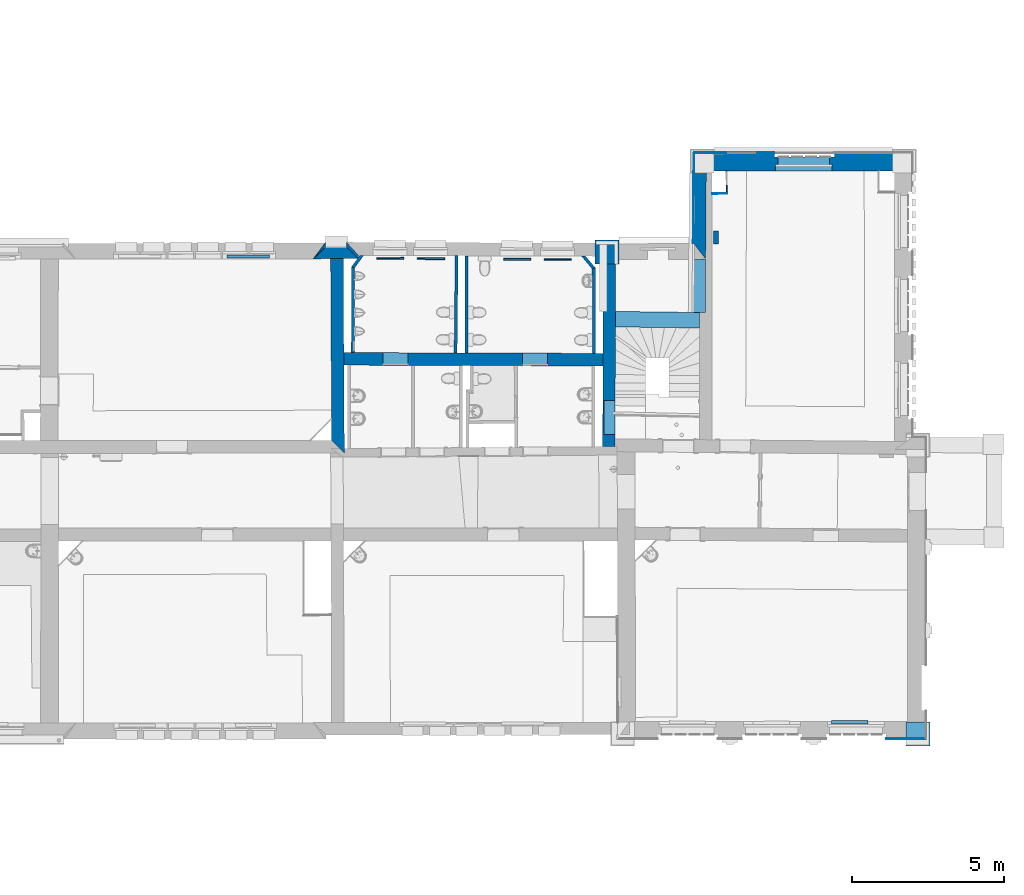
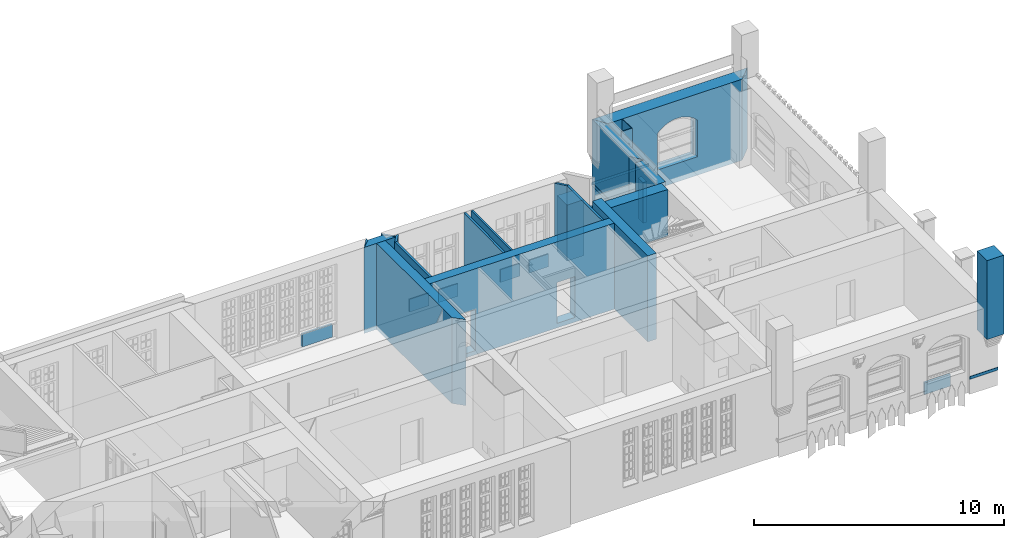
# One storey, part 35 of 90: 30 walls, 7 openings.
"""IFC2X3 building model written with IfcOpenShell, lengths in metres."""

from ifc_helpers import new_model, entity, si_unit, converted_unit, derived_unit, money_unit, direction, frame, origin_with_axes, origin_2d_with_axis, place, context, subcontext, project, spatial, polyline, rectangle, outline, extrude, clip, bounded_halfspace, material, layer, layer_set, layer_usage, type_object, element, save


model = new_model("IFC2X3")

# Units and contexts
model_context = context("Model", 3, precision=1e-05, world=origin_with_axes(), true_north=direction((0.0, 1.0)))
body_context = subcontext(model_context, "Body", "Model", "MODEL_VIEW")
ifc_project = project(units=[si_unit("LENGTHUNIT", "METRE"), si_unit("AREAUNIT", "SQUARE_METRE"), si_unit("VOLUMEUNIT", "CUBIC_METRE"), converted_unit("PLANEANGLEUNIT", "DEGREE", entity("IfcPlaneAngleMeasure", 0.0174532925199), si_unit("PLANEANGLEUNIT", "RADIAN"), dimensions=[0, 0, 0, 0, 0, 0, 0]), money_unit("EUR"), converted_unit("TIMEUNIT", "Year", entity("IfcTimeMeasure", 31556926.0), si_unit("TIMEUNIT", "SECOND"), dimensions=[0, 0, 1, 0, 0, 0, 0]), si_unit("MASSUNIT", "GRAM", prefix="KILO"), si_unit("THERMODYNAMICTEMPERATUREUNIT", "DEGREE_CELSIUS"), si_unit("LUMINOUSINTENSITYUNIT", "LUMEN"), si_unit("ENERGYUNIT", "JOULE", prefix="MEGA"), derived_unit("THERMALCONDUCTANCEUNIT", [(si_unit("POWERUNIT", "WATT"), 1), (si_unit("LENGTHUNIT", "METRE"), -1), (si_unit("THERMODYNAMICTEMPERATUREUNIT", "KELVIN"), -1)]), derived_unit("SPECIFICHEATCAPACITYUNIT", [(si_unit("ENERGYUNIT", "JOULE"), 1), (si_unit("MASSUNIT", "GRAM", prefix="KILO"), -1), (si_unit("THERMODYNAMICTEMPERATUREUNIT", "KELVIN"), -1)]), derived_unit("MASSDENSITYUNIT", [(si_unit("MASSUNIT", "GRAM", prefix="KILO"), 1), (si_unit("VOLUMEUNIT", "CUBIC_METRE"), -1)])], contexts=[model_context])

# Site, building, storey
site_placement = place(None, origin_with_axes())
site = spatial("IfcSite", under=ifc_project, at=site_placement, Name="Gelände", CompositionType="ELEMENT")
building_placement = place(site_placement, origin_with_axes())
building = spatial("IfcBuilding", under=site, at=building_placement, Name="Gebäude", CompositionType="ELEMENT")
storey_placement = place(building_placement, frame((0.0, 0.0, 3.7), z_axis=(0.0, 0.0, 1.0), x_axis=(1.0, 0.0, 0.0)))
storey = spatial("IfcBuildingStorey", under=building, at=storey_placement, Name="1.OBERGESCHOSS", CompositionType="ELEMENT", Elevation=3.7)

# Walls
ifc_material_1 = material(Name="05_ALLGEMEIN - TRAGENDE BAUTEILE")
ifc_layer_1 = layer(ifc_material_1, 0.4, ventilated="UNKNOWN")
ifc_layer_set_1 = layer_set([ifc_layer_1], Name="05_ALLGEMEIN - TRAGENDE BAUTEILE 0.4")
ifc_layer_usage_1 = layer_usage(ifc_layer_set_1, "AXIS2", "NEGATIVE", 0.4)
wall_type_1 = type_object("IfcWallType", Name="05_ALLGEMEIN - TRAGENDE BAUTEILE 400", PredefinedType="ELEMENTEDWALL")
wall_1_placement = place(storey_placement, frame((24.4781768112, 26.1855696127, 1.74), z_axis=(0.0, 0.0, 1.0), x_axis=(-0.00729687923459, -0.999973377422, 0.0)))
element("IfcWallStandardCase", 1, at=wall_1_placement, inside=storey, type_object=wall_type_1, material=ifc_layer_usage_1, Name="Wand-030", ObjectType="ELEMENTEDWALL", context=body_context, shape_type="SweptSolid", body=[
    extrude(outline(polyline([(0.520042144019, 0.0), (2.27161467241, 0.0), (2.27161467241, 0.4), (0.514949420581, 0.4), (0.520042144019, 0.0)])), origin_with_axes(), (0.0, 0.0, 1.0), 2.13),
])
ifc_layer_usage_2 = layer_usage(ifc_layer_set_1, "AXIS2", "NEGATIVE", 0.4)
wall_2_placement = place(storey_placement, frame((24.4999032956, 29.1629939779, -0.1), z_axis=(0.0, 0.0, 1.0), x_axis=(-0.00729687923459, -0.999973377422, 0.0)))
element("IfcWallStandardCase", 2, at=wall_2_placement, inside=storey, type_object=wall_type_1, material=ifc_layer_usage_2, Name="Wand-030", ObjectType="ELEMENTEDWALL", context=body_context, shape_type="SweptSolid", body=[
    extrude(outline(polyline([(0.0, 0.0), (2.97750363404, 0.0), (3.49245305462, 0.4), (0.586804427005, 0.4), (0.0, 0.0)])), origin_with_axes(), (0.0, 0.0, 1.0), 3.97),
])
ifc_layer_usage_3 = layer_usage(ifc_layer_set_1, "AXIS2", "NEGATIVE", 0.4)
wall_3_placement = place(storey_placement, frame((13.0455516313, 26.2275297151, -0.1), z_axis=(0.0, 0.0, 1.0), x_axis=(0.0, -1.0, 0.0)))
element("IfcWallStandardCase", 3, at=wall_3_placement, inside=storey, type_object=wall_type_1, material=ifc_layer_usage_3, Name="Wand-033", ObjectType="ELEMENTEDWALL", context=body_context, shape_type="SweptSolid", body=[
    extrude(outline(polyline([(0.0, 0.0), (0.158366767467, 0.0), (0.53565536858, 0.4), (0.43157479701, 0.4), (0.0, 0.0)])), origin_with_axes(), (0.0, 0.0, 1.0), 4.2),
])
ifc_layer_usage_4 = layer_usage(ifc_layer_set_1, "AXIS2", "NEGATIVE", 0.4)
wall_4_placement = place(storey_placement, frame((12.352797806, 26.0644519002, -0.1), z_axis=(0.0, 0.0, 1.0), x_axis=(-0.00932805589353, 0.99995649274, 0.0)))
element("IfcWallStandardCase", 4, at=wall_4_placement, inside=storey, type_object=wall_type_1, material=ifc_layer_usage_4, Name="Wand-035", ObjectType="ELEMENTEDWALL", context=body_context, shape_type="SweptSolid", body=[
    extrude(outline(polyline([(0.0, 0.0), (0.13799130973, 0.0), (-0.378959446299, 0.4), (-0.37899007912, 0.4), (0.0, 0.0)])), origin_with_axes(), (0.0, 0.0, 1.0), 4.2),
])
ifc_layer_2 = layer(ifc_material_1, 0.51, ventilated="UNKNOWN")
ifc_layer_set_2 = layer_set([ifc_layer_2], Name="05_ALLGEMEIN - TRAGENDE BAUTEILE 0.51")
ifc_layer_usage_5 = layer_usage(ifc_layer_set_2, "AXIS2", "NEGATIVE", 0.51)
wall_type_2 = type_object("IfcWallType", Name="05_ALLGEMEIN - TRAGENDE BAUTEILE 510", PredefinedType="ELEMENTEDWALL")
wall_5_placement = place(storey_placement, frame((21.8990175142, 23.4391117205, 1.58664833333), z_axis=(0.0, 0.0, 1.0), x_axis=(0.999912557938, -0.0132240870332, 0.0)))
element("IfcWallStandardCase", 5, at=wall_5_placement, inside=storey, type_object=wall_type_2, material=ifc_layer_usage_5, Name="Wand-039", ObjectType="ELEMENTEDWALL", context=body_context, shape_type="SweptSolid", body=[
    extrude(outline(polyline([(0.0, 0.0), (2.77362727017, 0.0), (2.76695769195, 0.51), (-0.00607977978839, 0.51), (0.0, 0.0)])), origin_with_axes(), (0.0, 0.0, 1.0), 2.28335166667),
])
ifc_layer_3 = layer(ifc_material_1, 0.38, ventilated="UNKNOWN")
ifc_layer_set_3 = layer_set([ifc_layer_3], Name="05_ALLGEMEIN - TRAGENDE BAUTEILE 0.38")
ifc_layer_usage_6 = layer_usage(ifc_layer_set_3, "AXIS2", "NEGATIVE", 0.38)
wall_type_3 = type_object("IfcWallType", Name="05_ALLGEMEIN - TRAGENDE BAUTEILE 380", PredefinedType="ELEMENTEDWALL")
wall_6_placement = place(storey_placement, frame((13.0455516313, 26.0691629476, -0.1), z_axis=(0.0, 0.0, 1.0), x_axis=(-0.999976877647, -0.00680030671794, 0.0)))
element("IfcWallStandardCase", 6, at=wall_6_placement, inside=storey, type_object=wall_type_3, material=ifc_layer_usage_6, Name="Wand-034", ObjectType="ELEMENTEDWALL", context=body_context, shape_type="SweptSolid", body=[
    extrude(outline(polyline([(0.0, 0.0), (0.692769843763, 0.0), (1.09181054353, 0.38), (-0.39742507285, 0.38), (0.0, 0.0)])), origin_with_axes(), (0.0, 0.0, 1.0), 4.2),
])
ifc_material_2 = material(Name="43_Gipskarton")
ifc_layer_4 = layer(ifc_material_2, 0.03, ventilated="UNKNOWN")
ifc_layer_set_4 = layer_set([ifc_layer_4], Name="43_Gipskarton 0.03")
ifc_layer_usage_7 = layer_usage(ifc_layer_set_4, "AXIS2", "NEGATIVE", 0.03)
wall_type_4 = type_object("IfcWallType", Name="43_Gipskarton 30", PredefinedType="ELEMENTEDWALL")
wall_7_placement = place(storey_placement, frame((25.0830533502, 27.8132269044, -0.1), z_axis=(0.0, 0.0, 1.0), x_axis=(0.999947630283, 0.0102340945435, 0.0)))
element("IfcWallStandardCase", 7, at=wall_7_placement, inside=storey, type_object=wall_type_4, material=ifc_layer_usage_7, Name="Wand-040", ObjectType="ELEMENTEDWALL", context=body_context, shape_type="SweptSolid", body=[
    extrude(outline(polyline([(0.0, 0.0), (0.497519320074, 0.0), (0.467361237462, 0.03), (0.000311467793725, 0.03), (0.0, 0.0)])), origin_with_axes(), (0.0, 0.0, 1.0), 3.97),
])

# Wall, opening
ifc_layer_usage_8 = layer_usage(ifc_layer_set_4, "AXIS2", "NEGATIVE", 0.03)
wall_8_placement = place(storey_placement, frame((25.5805466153, 27.8183185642, -0.1), z_axis=(0.0, 0.0, 1.0), x_axis=(-0.0154892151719, 0.999880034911, 0.0)))
wall_8 = element("IfcWallStandardCase", 8, at=wall_8_placement, inside=storey, type_object=wall_type_4, material=ifc_layer_usage_8, Name="Wand-041", ObjectType="ELEMENTEDWALL", context=body_context, shape_type="SweptSolid", body=[
    extrude(outline(polyline([(0.0, 0.0), (0.755556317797, 0.0), (0.755998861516, 0.03), (0.030158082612, 0.03), (0.0, 0.0)])), origin_with_axes(), (0.0, 0.0, 1.0), 3.97),
])
opening_1_placement = place(wall_8_placement, frame((0.521486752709, 0.0, 0.37495937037), z_axis=(0.0, 0.0, 1.0), x_axis=(1.0, 0.0, 0.0)))
element("IfcOpeningElement", 9, at=opening_1_placement, cuts=wall_8, Name="Tür-022", context=body_context, shape_type="SweptSolid", body=[
    extrude(rectangle(XDim=0.403775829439, YDim=0.390717, at=origin_2d_with_axis()), frame((0.0, -0.03, 0.1953585), z_axis=(0.0, -1.0, 0.0), x_axis=(1.0, 0.0, 0.0)), (0.0, 0.0, -1.0), 0.09),
])

# Walls
ifc_material_3 = material(Name="01_ALLGEMEIN - BAUTEIL")
ifc_layer_5 = layer(ifc_material_3, 0.105, ventilated="UNKNOWN")
ifc_layer_set_5 = layer_set([ifc_layer_5], Name="01_ALLGEMEIN - BAUTEIL 0.105")
ifc_layer_usage_9 = layer_usage(ifc_layer_set_5, "AXIS2", "NEGATIVE", 0.105)
wall_type_5 = type_object("IfcWallType", Name="01_ALLGEMEIN - BAUTEIL 105", PredefinedType="ELEMENTEDWALL")
wall_9_placement = place(storey_placement, frame((9.120017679, 25.7019718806, 0.222143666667), z_axis=(0.0, 0.0, 1.0), x_axis=(0.999990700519, 0.00431264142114, 0.0)))
element("IfcWallStandardCase", 10, at=wall_9_placement, inside=storey, type_object=wall_type_5, material=ifc_layer_usage_9, Name="Wand-035", ObjectType="ELEMENTEDWALL", context=body_context, shape_type="SweptSolid", body=[
    extrude(outline(polyline([(0.0, 0.0), (1.39622550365, 0.0), (1.39622550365, 0.105), (0.0, 0.105), (0.0, 0.0)])), origin_with_axes(), (0.0, 0.0, 1.0), 0.626381),
])
ifc_layer_usage_10 = layer_usage(ifc_layer_set_5, "AXIS2", "NEGATIVE", 0.0)
wall_10_placement = place(storey_placement, frame((29.0155421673, 10.4735687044, 0.225519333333), z_axis=(0.0, 0.0, 1.0), x_axis=(0.999997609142, 0.00218671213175, 0.0)))
element("IfcWallStandardCase", 11, at=wall_10_placement, inside=storey, type_object=wall_type_5, material=ifc_layer_usage_10, Name="Wand-036", ObjectType="ELEMENTEDWALL", context=body_context, shape_type="SweptSolid", body=[
    extrude(outline(polyline([(0.0, -0.105), (1.19708234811, -0.105), (1.19708234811, 0.0), (0.0, 0.0), (0.0, -0.105)])), origin_with_axes(), (0.0, 0.0, 1.0), 0.572068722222),
])
ifc_layer_6 = layer(ifc_material_2, 0.1, ventilated="UNKNOWN")
ifc_layer_set_6 = layer_set([ifc_layer_6], Name="43_Gipskarton 0.1")
ifc_layer_usage_11 = layer_usage(ifc_layer_set_6, "AXIS2", "NEGATIVE", 0.0)
wall_type_6 = type_object("IfcWallType", Name="43_Gipskarton 100", PredefinedType="ELEMENTEDWALL")
wall_11_placement = place(storey_placement, frame((16.5872843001, 22.1683236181, -0.1), z_axis=(0.0, 0.0, 1.0), x_axis=(0.0103294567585, 0.999946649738, 0.0)))
element("IfcWallStandardCase", 12, at=wall_11_placement, inside=storey, type_object=wall_type_6, material=ifc_layer_usage_11, Name="Wand-040", ObjectType="ELEMENTEDWALL", context=body_context, shape_type="SweptSolid", body=[
    extrude(outline(polyline([(0.415351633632, -0.1), (3.61597465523, -0.1), (3.61533455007, 0.0), (0.414626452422, 0.0), (0.415351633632, -0.1)])), origin_with_axes(), (0.0, 0.0, 1.0), 4.2),
])
ifc_layer_usage_12 = layer_usage(ifc_layer_set_6, "AXIS2", "NEGATIVE", 0.0)
wall_12_placement = place(storey_placement, frame((13.9243011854, 26.2240773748, -0.1), z_axis=(0.0, 0.0, 1.0), x_axis=(-0.589056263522, -0.808092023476, 0.0)))
element("IfcWallStandardCase", 13, at=wall_12_placement, inside=storey, type_object=wall_type_6, material=ifc_layer_usage_12, Name="Wand-040", ObjectType="ELEMENTEDWALL", context=body_context, shape_type="SweptSolid", body=[
    extrude(outline(polyline([(0.6028969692, -0.1), (1.07335964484, -0.1), (1.04092595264, 0.0), (0.530602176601, 0.0), (0.6028969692, -0.1)])), origin_with_axes(), (0.0, 0.0, 1.0), 4.2),
])
ifc_layer_usage_13 = layer_usage(ifc_layer_set_6, "AXIS2", "NEGATIVE", 0.1)
wall_13_placement = place(storey_placement, frame((21.1391038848, 25.3501603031, -0.1), z_axis=(0.0, 0.0, 1.0), x_axis=(0.00208256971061, -0.999997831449, 0.0)))
element("IfcWallStandardCase", 14, at=wall_13_placement, inside=storey, type_object=wall_type_6, material=ifc_layer_usage_13, Name="Wand-040", ObjectType="ELEMENTEDWALL", context=body_context, shape_type="SweptSolid", body=[
    extrude(outline(polyline([(0.0, 0.0), (2.78125337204, 0.0), (2.78176942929, 0.1), (-0.0361737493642, 0.1), (0.0, 0.0)])), origin_with_axes(), (0.0, 0.0, 1.0), 4.2),
])

# Wall, opening
ifc_layer_usage_14 = layer_usage(ifc_layer_set_6, "AXIS2", "NEGATIVE", 0.0)
wall_14_placement = place(storey_placement, frame((13.3111372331, 25.3829134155, -0.1), z_axis=(0.0, 0.0, 1.0), x_axis=(-0.00262638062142, -0.999996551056, 0.0)))
wall_14 = element("IfcWallStandardCase", 15, at=wall_14_placement, inside=storey, type_object=wall_type_6, material=ifc_layer_usage_14, Name="Wand-040", ObjectType="ELEMENTEDWALL", context=body_context, shape_type="SweptSolid", body=[
    extrude(outline(polyline([(-0.0324336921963, -0.1), (2.78983032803, -0.1), (2.78987548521, 0.0), (0.0, 0.0), (-0.0324336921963, -0.1)])), origin_with_axes(), (0.0, 0.0, 1.0), 4.2),
])
opening_2_placement = place(wall_14_placement, frame((2.57018553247, 0.0, 3.05255466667), z_axis=(0.0, 0.0, 1.0), x_axis=(1.0, 0.0, 0.0)))
element("IfcOpeningElement", 16, at=opening_2_placement, cuts=wall_14, Name="Tür-022", context=body_context, shape_type="SweptSolid", body=[
    extrude(rectangle(XDim=0.301564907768, YDim=0.293011, at=origin_2d_with_axis()), frame((0.0, -0.03, 0.1465055), z_axis=(0.0, 1.0, 0.0), x_axis=(1.0, 0.0, 0.0)), (0.0, 0.0, -1.0), 0.17),
    extrude(rectangle(XDim=0.301564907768, YDim=0.293011, at=origin_2d_with_axis()), frame((0.0, -0.03, 0.1465055), z_axis=(0.0, -1.0, 0.0), x_axis=(1.0, 0.0, 0.0)), (0.0, 0.0, -1.0), 0.13),
])

# Walls
ifc_layer_usage_15 = layer_usage(ifc_layer_set_6, "AXIS2", "NEGATIVE", 0.1)
wall_15_placement = place(storey_placement, frame((17.0451808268, 22.1669142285, -0.1), z_axis=(0.0, 0.0, 1.0), x_axis=(0.00272783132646, 0.999996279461, 0.0)))
element("IfcWallStandardCase", 17, at=wall_15_placement, inside=storey, type_object=wall_type_6, material=ifc_layer_usage_15, Name="Wand-040", ObjectType="ELEMENTEDWALL", context=body_context, shape_type="SweptSolid", body=[
    extrude(outline(polyline([(0.414615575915, 0.0), (3.61487354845, 0.0), (3.61499363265, 0.1), (0.414650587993, 0.1), (0.414615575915, 0.0)])), origin_with_axes(), (0.0, 0.0, 1.0), 4.2),
])
ifc_layer_usage_16 = layer_usage(ifc_layer_set_6, "AXIS2", "NEGATIVE", 0.1)
wall_16_placement = place(storey_placement, frame((20.4299362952, 26.1985187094, -0.1), z_axis=(0.0, 0.0, 1.0), x_axis=(0.64135906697, -0.767240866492, 0.0)))
element("IfcWallStandardCase", 18, at=wall_16_placement, inside=storey, type_object=wall_type_6, material=ifc_layer_usage_16, Name="Wand-040", ObjectType="ELEMENTEDWALL", context=body_context, shape_type="SweptSolid", body=[
    extrude(outline(polyline([(0.562300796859, 0.0), (1.10572630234, 0.0), (1.1419000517, 0.1), (0.6465633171, 0.1), (0.562300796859, 0.0)])), origin_with_axes(), (0.0, 0.0, 1.0), 4.2),
])

# Wall, opening
ifc_layer_7 = layer(ifc_material_1, 0.41, ventilated="UNKNOWN")
ifc_layer_set_7 = layer_set([ifc_layer_7], Name="05_ALLGEMEIN - TRAGENDE BAUTEILE 0.41")
ifc_layer_usage_17 = layer_usage(ifc_layer_set_7, "AXIS2", "NEGATIVE", 0.41)
wall_type_7 = type_object("IfcWallType", Name="05_ALLGEMEIN - TRAGENDE BAUTEILE 410", PredefinedType="ELEMENTEDWALL")
wall_17_placement = place(storey_placement, frame((21.893513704, 19.2180781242, -0.1), z_axis=(0.0, 0.0, 1.0), x_axis=(0.00130389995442, 0.999999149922, 0.0)))
wall_17 = element("IfcWallStandardCase", 19, at=wall_17_placement, inside=storey, type_object=wall_type_7, material=ifc_layer_usage_17, Name="Wand-039", ObjectType="ELEMENTEDWALL", context=body_context, shape_type="Clipping", body=[
    clip(clip(extrude(outline(polyline([(0.280009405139, 0.0), (6.43348921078, 0.0), (6.95073836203, 0.41), (0.276648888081, 0.41), (0.280009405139, 0.0)])), origin_with_axes(), (0.0, 0.0, 1.0), 4.2), bounded_halfspace(frame((2.48461636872, -0.0266146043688, 4.90869412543), z_axis=(-0.451604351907, 0.00483747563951, -0.892205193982), x_axis=(0.0, 0.999985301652, 0.00542185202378)), True, origin_with_axes(), polyline([(4.92678358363, -0.01), (7.14291679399, -0.01), (7.14291679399, 0.0), (7.14236915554, 0.42), (4.92622290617, 0.42), (4.92678358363, -0.01)]))), bounded_halfspace(frame((2.48461636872, -0.0266146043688, 4.90869412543), z_axis=(-0.451604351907, 0.00483747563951, -0.892205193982), x_axis=(0.0, 0.999985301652, 0.00542185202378)), True, origin_with_axes(), polyline([(4.70121638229, -0.01), (6.44643514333, -0.01), (6.44587446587, 0.42), (4.70065570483, 0.42), (4.70121638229, -0.01)]))),
])
opening_3_placement = place(wall_17_placement, frame((1.24122105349, 0.0, 0.226090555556), z_axis=(0.0, 0.0, 1.0), x_axis=(1.0, 0.0, 0.0)))
element("IfcOpeningElement", 20, at=opening_3_placement, cuts=wall_17, Name="Fenster-016", ObjectType="Recess", context=body_context, shape_type="SweptSolid", body=[
    extrude(outline(polyline([(-0.564529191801, 0.0), (-0.564529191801, -2.88000000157), (-0.485178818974, -2.96817439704), (-0.392231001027, -3.04187587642), (-0.288290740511, -3.09903902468), (-0.176270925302, -3.13806168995), (-0.0593110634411, -3.15785034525), (0.0593110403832, -3.15785034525), (0.1762709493, -3.13806168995), (0.288290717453, -3.09903902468), (0.392231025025, -3.04187587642), (0.485178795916, -2.96817439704), (0.564529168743, -2.88000000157), (0.564530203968, -2.87990000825), (0.564529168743, 0.0), (-0.564529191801, 0.0)])), frame((0.0, 0.365707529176, 0.0), z_axis=(0.0, 1.0, 0.0), x_axis=(1.0, 0.0, 0.0)), (0.0, 0.0, -1.0), 0.775707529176),
])

# Walls
ifc_layer_8 = layer(ifc_material_1, 0.79, ventilated="UNKNOWN")
ifc_layer_set_8 = layer_set([ifc_layer_8], Name="05_ALLGEMEIN - TRAGENDE BAUTEILE 0.79")
ifc_layer_usage_18 = layer_usage(ifc_layer_set_8, "AXIS2", "NEGATIVE", 0.79)
wall_type_8 = type_object("IfcWallType", Name="05_ALLGEMEIN - TRAGENDE BAUTEILE 790", PredefinedType="ELEMENTEDWALL")
wall_18_placement = place(storey_placement, frame((22.017341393, 26.2942280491, 0.293172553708), z_axis=(0.0, 0.0, 1.0), x_axis=(-1.0, 0.0, 0.0)))
element("IfcWallStandardCase", 21, at=wall_18_placement, inside=storey, type_object=wall_type_8, material=ifc_layer_usage_18, Name="Wand-029", ObjectType="ELEMENTEDWALL", context=body_context, shape_type="SweptSolid", body=[
    extrude(outline(polyline([(0.0, 0.0), (0.79, 0.0), (0.79, 0.79), (0.0, 0.79), (0.0, 0.0)])), origin_with_axes(), (0.0, 0.0, 1.0), 2.73583420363),
])
ifc_layer_usage_19 = layer_usage(ifc_layer_set_8, "AXIS2", "NEGATIVE", 0.79)
wall_19_placement = place(storey_placement, frame((32.2608723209, 9.64533350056, 2.49092121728), z_axis=(0.0, 0.0, 1.0), x_axis=(0.0, 1.0, 0.0)))
element("IfcWallStandardCase", 22, at=wall_19_placement, inside=storey, type_object=wall_type_8, material=ifc_layer_usage_19, Name="Wand-029", ObjectType="ELEMENTEDWALL", context=body_context, shape_type="SweptSolid", body=[
    extrude(outline(polyline([(0.0, 0.0), (0.79, 0.0), (0.79, 0.79), (0.0, 0.79), (0.0, 0.0)])), origin_with_axes(), (0.0, 0.0, 1.0), 3.85942458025),
])

# Wall, openings
ifc_layer_9 = layer(ifc_material_1, 0.59, ventilated="UNKNOWN")
ifc_layer_set_9 = layer_set([ifc_layer_9], Name="05_ALLGEMEIN - TRAGENDE BAUTEILE 0.59")
ifc_layer_usage_20 = layer_usage(ifc_layer_set_9, "AXIS2", "NEGATIVE", 0.59)
wall_type_9 = type_object("IfcWallType", Name="05_ALLGEMEIN - TRAGENDE BAUTEILE 590", PredefinedType="ELEMENTEDWALL")
wall_20_placement = place(storey_placement, frame((31.6739429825, 29.1682988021, -0.1), z_axis=(0.0, 0.0, 1.0), x_axis=(-0.999999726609, -0.000739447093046, 0.0)))
wall_20 = element("IfcWallStandardCase", 23, at=wall_20_placement, inside=storey, type_object=wall_type_9, material=ifc_layer_usage_20, Name="Wand-030", ObjectType="ELEMENTEDWALL", context=body_context, shape_type="SweptSolid", body=[
    extrude(outline(polyline([(0.0, 0.0), (7.17404164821, 0.0), (6.778770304, 0.59), (0.58023751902, 0.59), (0.0, 0.0)])), origin_with_axes(), (0.0, 0.0, 1.0), 3.97),
])
opening_4_placement = place(wall_20_placement, frame((3.54982631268, 0.0, -2.90729258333), z_axis=(0.0, 0.0, 1.0), x_axis=(1.0, 0.0, 0.0)))
element("IfcOpeningElement", 24, at=opening_4_placement, cuts=wall_20, Name="Fenster-015", ObjectType="Recess", context=body_context, shape_type="SweptSolid", body=[
    extrude(outline(polyline([(-0.989000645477, 0.0), (-0.989000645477, -5.63299996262), (-0.826756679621, -5.78570380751), (-0.64128743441, -5.90916520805), (-0.437803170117, -5.99991587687), (-0.222020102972, -6.0554065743), (-1.98459498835e-08, -6.07407825), (0.22202006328, -6.0554065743), (0.437803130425, -5.99991587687), (0.641287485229, -5.90916520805), (0.82675673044, -5.78570380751), (0.989000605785, -5.63299996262), (0.989001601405, -5.63290003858), (0.989000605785, 0.0), (-0.989000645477, 0.0)])), frame((0.0, 0.137560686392, 0.0), z_axis=(0.0, 1.0, 0.0), x_axis=(1.0, 0.0, 0.0)), (0.0, 0.0, -1.0), 0.727560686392),
])
opening_5_placement = place(wall_20_placement, frame((3.57042391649, 0.0, 0.899881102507), z_axis=(0.0, 0.0, 1.0), x_axis=(1.0, 0.0, 0.0)))
element("IfcOpeningElement", 25, at=opening_5_placement, cuts=wall_20, Name="Fenster-015", context=body_context, shape_type="SweptSolid", body=[
    extrude(outline(polyline([(-0.855, 0.0), (-0.855, -1.75411363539), (-0.780417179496, -1.83150514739), (-0.698859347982, -1.90150774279), (-0.611055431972, -1.96349577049), (-0.517790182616, -2.01691520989), (-0.419897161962, -2.06128862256), (-0.318251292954, -2.09621941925), (-0.213761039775, -2.12139540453), (-0.107360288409, -2.13659156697), (0.0, -2.14167209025), (0.107360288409, -2.13659156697), (0.213761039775, -2.12139540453), (0.318251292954, -2.09621941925), (0.419897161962, -2.06128862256), (0.517790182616, -2.01691520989), (0.611055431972, -1.96349577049), (0.698859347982, -1.90150774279), (0.780417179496, -1.83150514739), (0.855, -1.75411363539), (0.855, 0.0), (-0.855, 0.0)])), frame((0.0, 0.382213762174, 0.0), z_axis=(0.0, 1.0, 0.0), x_axis=(1.0, 0.0, 0.0)), (0.0, 0.0, -1.0), 0.972213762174),
    extrude(outline(polyline([(0.925, 0.0), (0.925, 1.78), (0.845547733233, 1.86596498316), (0.758141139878, 1.94382850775), (0.663602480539, 2.01285808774), (0.56282110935, 2.07240434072), (0.456745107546, 2.12190709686), (0.346372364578, 2.16090066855), (0.232741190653, 2.18901823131), (0.11692054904, 2.20599527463), (0.0, 2.21167209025), (-0.11692054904, 2.20599527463), (-0.232741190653, 2.18901823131), (-0.346372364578, 2.16090066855), (-0.456745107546, 2.12190709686), (-0.56282110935, 2.07240434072), (-0.663602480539, 2.01285808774), (-0.758141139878, 1.94382850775), (-0.845547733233, 1.86596498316), (-0.925, 1.78), (-0.925, 0.0), (0.925, 0.0)])), frame((0.0, 0.382213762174, 0.0), z_axis=(0.0, -1.0, 0.0), x_axis=(1.0, 0.0, 0.0)), (0.0, 0.0, -1.0), 0.797786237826),
])

# Walls
ifc_layer_10 = layer(ifc_material_3, 0.06, ventilated="UNKNOWN")
ifc_layer_set_10 = layer_set([ifc_layer_10], Name="01_ALLGEMEIN - BAUTEIL 0.06")
ifc_layer_usage_21 = layer_usage(ifc_layer_set_10, "AXIS2", "NEGATIVE", 0.0)
wall_type_10 = type_object("IfcWallType", Name="01_ALLGEMEIN - BAUTEIL 60", PredefinedType="ELEMENTEDWALL")
wall_21_placement = place(storey_placement, frame((16.2787923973, 25.6530977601, 0.222143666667), z_axis=(0.0, 0.0, 1.0), x_axis=(-0.999961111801, 0.00881900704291, 0.0)))
element("IfcWallStandardCase", 26, at=wall_21_placement, inside=storey, type_object=wall_type_10, material=ifc_layer_usage_21, Name="Wand-035", ObjectType="ELEMENTEDWALL", context=body_context, shape_type="SweptSolid", body=[
    extrude(outline(polyline([(0.0, -0.06), (0.896180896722, -0.06), (0.896180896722, 0.0), (0.0, 0.0), (0.0, -0.06)])), origin_with_axes(), (0.0, 0.0, 1.0), 0.626381),
])
ifc_layer_usage_22 = layer_usage(ifc_layer_set_10, "AXIS2", "NEGATIVE", 0.06)
wall_22_placement = place(storey_placement, frame((18.2248749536, 25.6356224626, 0.222143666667), z_axis=(0.0, 0.0, 1.0), x_axis=(0.999994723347, -0.00324858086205, 0.0)))
element("IfcWallStandardCase", 27, at=wall_22_placement, inside=storey, type_object=wall_type_10, material=ifc_layer_usage_22, Name="Wand-035", ObjectType="ELEMENTEDWALL", context=body_context, shape_type="SweptSolid", body=[
    extrude(outline(polyline([(0.0, 0.0), (0.896676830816, 0.0), (0.896676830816, 0.06), (0.0, 0.06), (0.0, 0.0)])), origin_with_axes(), (0.0, 0.0, 1.0), 0.626381),
])
ifc_layer_usage_23 = layer_usage(ifc_layer_set_10, "AXIS2", "NEGATIVE", 0.06)
wall_23_placement = place(storey_placement, frame((14.0382855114, 25.661964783, 0.222143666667), z_axis=(0.0, 0.0, 1.0), x_axis=(0.99999447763, 0.00332335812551, 0.0)))
element("IfcWallStandardCase", 28, at=wall_23_placement, inside=storey, type_object=wall_type_10, material=ifc_layer_usage_23, Name="Wand-035", ObjectType="ELEMENTEDWALL", context=body_context, shape_type="SweptSolid", body=[
    extrude(outline(polyline([(0.0, 0.0), (0.898229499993, 0.0), (0.898229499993, 0.06), (0.0, 0.06), (0.0, 0.0)])), origin_with_axes(), (0.0, 0.0, 1.0), 0.626381),
])
ifc_layer_usage_24 = layer_usage(ifc_layer_set_10, "AXIS2", "NEGATIVE", 0.06)
wall_24_placement = place(storey_placement, frame((19.5537855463, 25.6308077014, 0.222143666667), z_axis=(0.0, 0.0, 1.0), x_axis=(0.999996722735, -0.00256017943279, 0.0)))
element("IfcWallStandardCase", 29, at=wall_24_placement, inside=storey, type_object=wall_type_10, material=ifc_layer_usage_24, Name="Wand-035", ObjectType="ELEMENTEDWALL", context=body_context, shape_type="SweptSolid", body=[
    extrude(outline(polyline([(0.0, 0.0), (0.894366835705, 0.0), (0.894366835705, 0.06), (0.0, 0.06), (0.0, 0.0)])), origin_with_axes(), (0.0, 0.0, 1.0), 0.626381),
])
ifc_layer_11 = layer(ifc_material_3, 0.175, ventilated="UNKNOWN")
ifc_layer_set_11 = layer_set([ifc_layer_11], Name="01_ALLGEMEIN - BAUTEIL 0.175")
ifc_layer_usage_25 = layer_usage(ifc_layer_set_11, "AXIS2", "NEGATIVE", 0.175)
wall_type_11 = type_object("IfcWallType", Name="01_ALLGEMEIN - BAUTEIL 175", PredefinedType="ELEMENTEDWALL")
wall_25_placement = place(storey_placement, frame((25.3019775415, 26.1739789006, 0.36969037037), z_axis=(0.0, 0.0, 1.0), x_axis=(0.00587709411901, 0.999982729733, 0.0)))
element("IfcWallStandardCase", 30, at=wall_25_placement, inside=storey, type_object=wall_type_11, material=ifc_layer_usage_25, Name="Wand-036", ObjectType="ELEMENTEDWALL", context=body_context, shape_type="SweptSolid", body=[
    extrude(outline(polyline([(0.0, 0.0), (0.416370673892, 0.0), (0.416370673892, 0.175), (0.0, 0.175), (0.0, 0.0)])), origin_with_axes(), (0.0, 0.0, 1.0), 1.989728),
])

# Wall, openings
ifc_layer_12 = layer(ifc_material_1, 0.414615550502, ventilated="UNKNOWN")
ifc_layer_set_12 = layer_set([ifc_layer_12], Name="05_ALLGEMEIN - TRAGENDE BAUTEILE 0.414616")
ifc_layer_usage_26 = layer_usage(ifc_layer_set_12, "AXIS2", "NEGATIVE", 0.0)
wall_type_12 = type_object("IfcWallType", Name="05_ALLGEMEIN - TRAGENDE BAUTEILE 415", PredefinedType="ELEMENTEDWALL")
wall_26_placement = place(storey_placement, frame((21.897339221, 22.1519794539, -0.1), z_axis=(0.0, 0.0, 1.0), x_axis=(-0.999995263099, 0.00307795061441, 0.0)))
wall_26 = element("IfcWallStandardCase", 31, at=wall_26_placement, inside=storey, type_object=wall_type_12, material=ifc_layer_usage_26, Name="Wand-038", ObjectType="ELEMENTEDWALL", context=body_context, shape_type="SweptSolid", body=[
    extrude(outline(polyline([(0.410736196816, -0.414615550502), (8.93931946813, -0.414615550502), (8.93572709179, 0.0), (0.410000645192, 0.0), (0.410736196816, -0.414615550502)])), origin_with_axes(), (0.0, 0.0, 1.0), 4.2),
])
opening_6_placement = place(wall_26_placement, frame((7.23616568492, 0.0, 0.205044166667), z_axis=(0.0, 0.0, 1.0), x_axis=(1.0, 0.0, 0.0)))
element("IfcOpeningElement", 32, at=opening_6_placement, cuts=wall_26, Name="Tür-022", context=body_context, shape_type="SweptSolid", body=[
    extrude(rectangle(XDim=0.833368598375, YDim=2.013278, at=origin_2d_with_axis()), frame((0.0, 0.414615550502, 1.006639), z_axis=(0.0, 1.0, 0.0), x_axis=(-1.0, 0.0, 0.0)), (0.0, 0.0, -1.0), 1.24384665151),
])
opening_7_placement = place(wall_26_placement, frame((2.64017637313, 0.0, 0.222408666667), z_axis=(0.0, 0.0, 1.0), x_axis=(1.0, 0.0, 0.0)))
element("IfcOpeningElement", 33, at=opening_7_placement, cuts=wall_26, Name="Tür-022", context=body_context, shape_type="SweptSolid", body=[
    extrude(rectangle(XDim=0.831359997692, YDim=1.996432, at=origin_2d_with_axis()), frame((0.0, 0.414615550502, 0.998216), z_axis=(0.0, -1.0, 0.0), x_axis=(1.0, 0.0, 0.0)), (0.0, 0.0, 1.0), 1.24384665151),
])

# Walls
ifc_layer_usage_27 = layer_usage(ifc_layer_set_12, "AXIS2", "NEGATIVE", 0.414615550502)
wall_27_placement = place(storey_placement, frame((12.5253235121, 26.065625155, -0.1), z_axis=(0.0, 0.0, 1.0), x_axis=(0.00558615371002, -0.999984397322, 0.0)))
element("IfcWallStandardCase", 34, at=wall_27_placement, inside=storey, type_object=wall_type_12, material=ifc_layer_usage_27, Name="Wand-039", ObjectType="ELEMENTEDWALL", context=body_context, shape_type="SweptSolid", body=[
    extrude(outline(polyline([(0.380000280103, 0.0), (6.36990281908, 0.0), (6.78671961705, 0.414615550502), (0.379496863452, 0.414615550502), (0.380000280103, 0.0)])), origin_with_axes(), (0.0, 0.0, 1.0), 4.2),
])
wall_type_13 = type_object("IfcWallType", Name="Fassade Sims 7 23 x 138", PredefinedType="ELEMENTEDWALL")
wall_28_placement = place(storey_placement, frame((24.4781768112, 26.1855696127, 0.784829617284), z_axis=(0.0, 0.0, 1.0), x_axis=(0.00729687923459, 0.999973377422, 0.0)))
element("IfcWall", 35, at=wall_28_placement, inside=storey, type_object=wall_type_13, material=ifc_material_3, Name="Wand-083", ObjectType="ELEMENTEDWALL", context=body_context, shape_type="SweptSolid", body=[
    extrude(outline(polyline([(0.0226167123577, 0.0), (0.0, 0.0), (0.0, -0.138037), (0.0226167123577, -0.138037), (0.0226167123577, 0.0)])), frame((0.0, 0.0, 0.0), z_axis=(1.0, 0.0, 0.0), x_axis=(0.0, 1.0, 0.0)), (0.0, 0.0, 1.0), 2.97750363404),
])
wall_29_placement = place(storey_placement, frame((24.4999032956, 29.1629939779, 0.784829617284), z_axis=(0.0, 0.0, 1.0), x_axis=(0.999999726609, 0.000739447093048, 0.0)))
element("IfcWall", 36, at=wall_29_placement, inside=storey, type_object=wall_type_13, material=ifc_material_3, Name="Wand-083", ObjectType="ELEMENTEDWALL", context=body_context, shape_type="SweptSolid", body=[
    extrude(outline(polyline([(0.0226167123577, 0.0), (0.0, 0.0), (0.0, -0.138037), (0.0226167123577, -0.138037), (0.0226167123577, 0.0)])), frame((0.0, 0.0, 0.0), z_axis=(1.0, 0.0, 0.0), x_axis=(0.0, 1.0, 0.0)), (0.0, 0.0, 1.0), 2.63521469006),
])
wall_30_placement = place(storey_placement, frame((32.1131897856, 9.89165640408, 0.784829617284), z_axis=(0.0, 0.0, 1.0), x_axis=(-0.999999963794, -0.000269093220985, 0.0)))
element("IfcWall", 37, at=wall_30_placement, inside=storey, type_object=wall_type_13, material=ifc_material_3, Name="Wand-089", ObjectType="ELEMENTEDWALL", context=body_context, shape_type="SweptSolid", body=[
    extrude(outline(polyline([(0.0226167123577, 0.0), (0.0, 0.0), (0.0, -0.138037), (0.0226167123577, -0.138037), (0.0226167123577, 0.0)])), frame((0.0, 0.0, 0.0), z_axis=(1.0, 0.0, 0.0), x_axis=(0.0, 1.0, 0.0)), (0.0, 0.0, 1.0), 1.29958004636),
])

save(model, "model.ifc")
